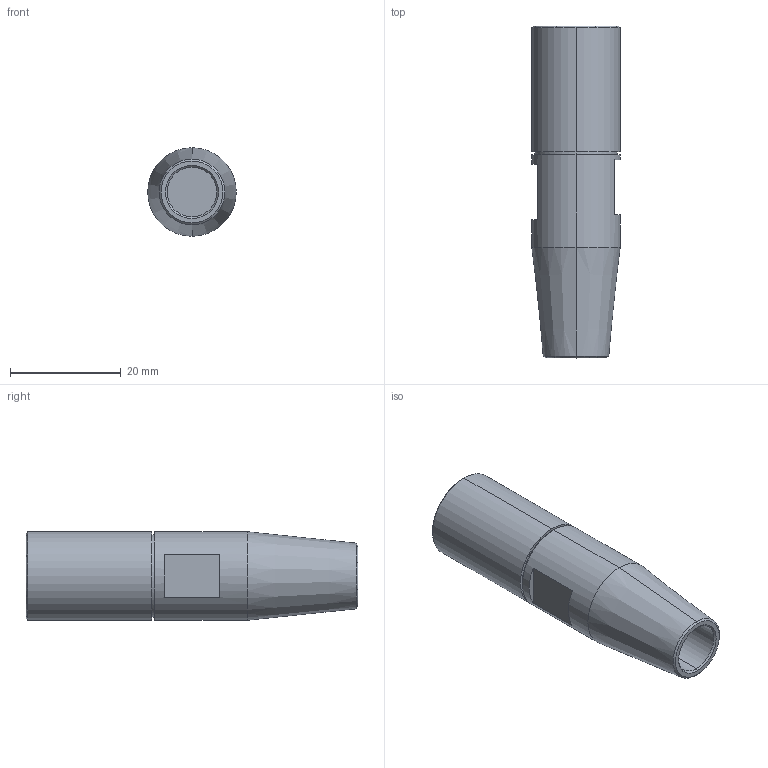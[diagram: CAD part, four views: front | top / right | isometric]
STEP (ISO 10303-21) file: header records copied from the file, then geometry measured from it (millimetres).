
FILE_DESCRIPTION (( 'STEP AP203' ), '1' );
FILE_NAME ('SW-PB-D456-3.STEP', '2022-06-15T02:14:32', ( '' ), ( '' ), 'SwSTEP 2.0', 'SolidWorks 2015', '' );
FILE_SCHEMA (( 'CONFIG_CONTROL_DESIGN' ));
Length unit declared in the file: millimetre
Products named in the file (2): SW-PB-D456-3
Bounding box: 16 x 60 x 16 mm (x, y, z)
Volume: 8623.8 mm3; surface area: 4286.8 mm2
Topology: 1 solids, 1 shells, 27 faces, 52 edges, 32 vertices
Faces by surface type: plane 11, cone 8, cylinder 8
Entity records: 933 total; most frequent: CARTESIAN_POINT 213, DIRECTION 130, ORIENTED_EDGE 104, AXIS2_PLACEMENT_3D 53, EDGE_CURVE 52, VERTEX_POINT 32, EDGE_LOOP 32, ADVANCED_FACE 27
